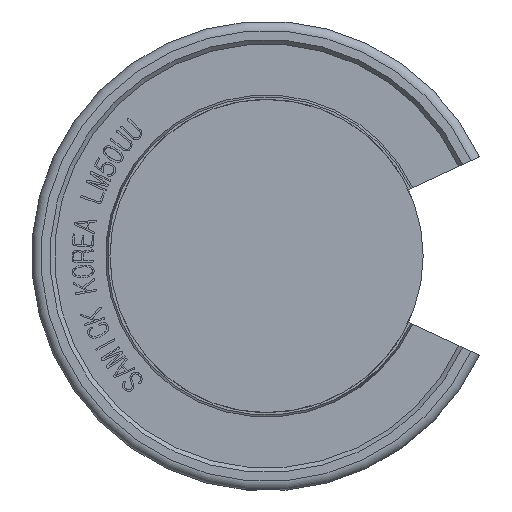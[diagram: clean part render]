
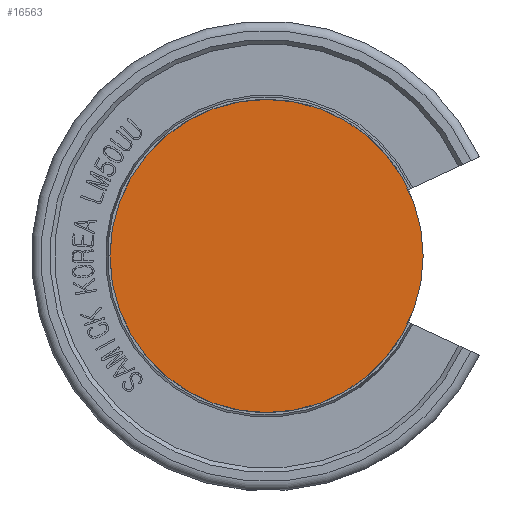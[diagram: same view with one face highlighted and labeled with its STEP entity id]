
A CAD part, front view. The second image highlights one B-rep face of the part: STEP entity #16563.
In plain terms, the highlighted planar face has unit normal (0, -1, 0).
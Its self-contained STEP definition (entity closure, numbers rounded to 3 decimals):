
#53=CIRCLE('',#16850,25.);
#325=PLANE('',#16852);
#1162=FACE_OUTER_BOUND('',#2048,.T.);
#2048=EDGE_LOOP('',(#14287));
#7163=VERTEX_POINT('',#28777);
#9545=EDGE_CURVE('',#7163,#7163,#53,.T.);
#14287=ORIENTED_EDGE('',*,*,#9545,.F.);
#16563=ADVANCED_FACE('',(#1162),#325,.T.);
#16850=AXIS2_PLACEMENT_3D('',#28779,#18537,#18538);
#16852=AXIS2_PLACEMENT_3D('',#28781,#18541,#18542);
#18537=DIRECTION('center_axis',(0.,1.,0.));
#18538=DIRECTION('ref_axis',(1.,0.,0.));
#18541=DIRECTION('center_axis',(0.,-1.,0.));
#18542=DIRECTION('ref_axis',(0.,0.,-1.));
#28777=CARTESIAN_POINT('',(-25.,-75.,0.));
#28779=CARTESIAN_POINT('Origin',(0.,-75.,0.));
#28781=CARTESIAN_POINT('Origin',(0.,-75.,0.));
